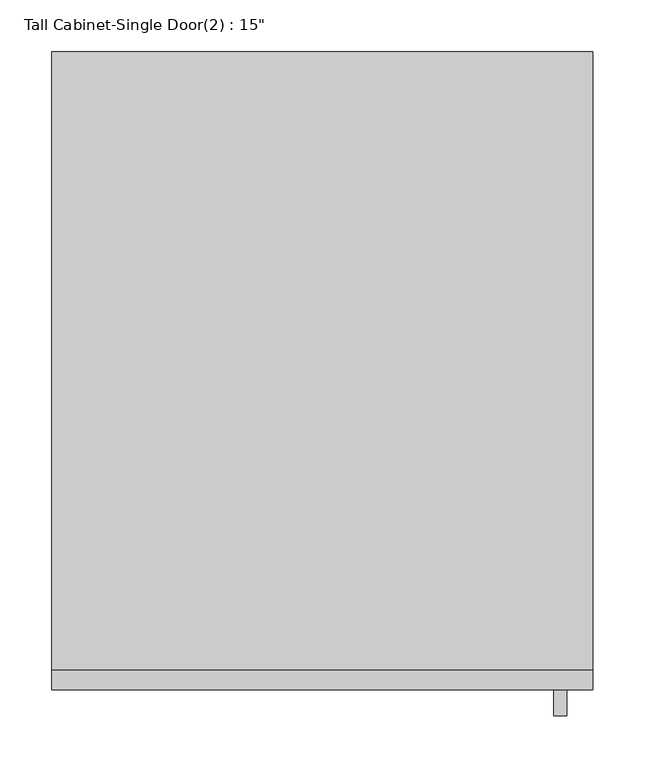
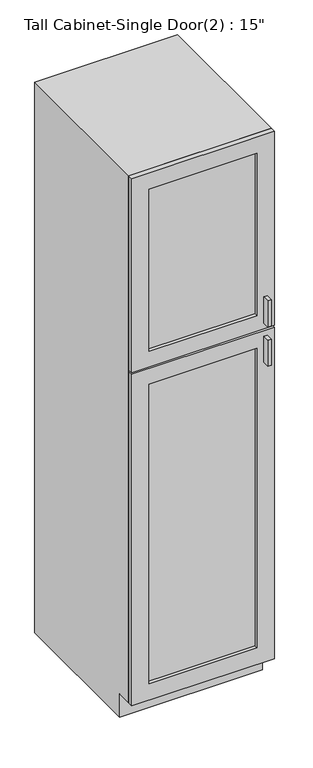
"""IFC4 building model written with IfcOpenShell, lengths in millimetres: furniture geometry."""

from ifc_helpers import new_model, si_unit, frame, origin, place, context, project, spatial, polyline, outline, extrude, faceted_brep, source, transform, mapped, element, save


def furniture_ce4d81af(model_context):
    return source(origin(), model_context, "Body", "SolidModel", [
        faceted_brep([(280.086767, -596.9, 90.4875), (280.086767, -596.9, 2133.6), (-242.6113572, -596.9, 2133.6), (-242.6113572, -596.9, 90.4875), (261.036767, -596.9, 2114.55), (261.036767, -596.9, 109.5375), (-223.5613572, -596.9, 109.5375), (-223.5613572, -596.9, 2114.55), (-242.6113572, 0.0, 2133.6), (280.086767, 0.0, 2133.6), (280.086767, 0.0, 0.0), (-242.6113572, 0.0, 0.0), (280.086767, -539.75, 90.4875), (280.086767, -539.75, 0.0), (-242.6113572, -539.75, 0.0), (-242.6113572, -539.75, 90.4875), (261.036767, -19.05, 2114.55), (261.036767, -19.05, 109.5375), (-223.5613572, -19.05, 109.5375), (-223.5613572, -19.05, 2114.55)], [[[0, 1, 2, 3], [4, 5, 6, 7]], [[8, 9, 10, 11]], [[1, 0, 12, 13, 10, 9]], [[2, 1, 9, 8]], [[3, 2, 8, 11, 14, 15]], [[0, 3, 15, 12]], [[5, 4, 16, 17]], [[6, 5, 17, 18]], [[7, 6, 18, 19]], [[4, 7, 19, 16]], [[10, 13, 14, 11]], [[14, 13, 12, 15]], [[17, 16, 19, 18]]]),
        extrude(outline(polyline([(254.686767, -641.35), (242.1545354, -641.35), (242.1545354, -615.95), (254.686767, -615.95), (254.686767, -641.35)])), frame((0.0, 0.0, 1403.5480367), z_axis=(0.0, 0.0, 1.0), x_axis=(1.0, 0.0, 0.0)), (0.0, 0.0, 1.0), 101.6),
        extrude(outline(polyline([(254.686767, -641.35), (242.1545354, -641.35), (242.1545354, -615.95), (254.686767, -615.95), (254.686767, -641.35)])), frame((0.0, 0.0, 1251.1480367), z_axis=(0.0, 0.0, 1.0), x_axis=(1.0, 0.0, 0.0)), (0.0, 0.0, 1.0), 101.6),
        extrude(outline(polyline([(216.586767, -603.25), (-179.1113572, -603.25), (-179.1113572, -596.9), (216.586767, -596.9), (216.586767, -603.25)])), frame((0.0, 0.0, 1441.6480367), z_axis=(0.0, 0.0, 1.0), x_axis=(1.0, 0.0, 0.0)), (0.0, 0.0, 1.0), 628.4519633),
        extrude(outline(polyline([(216.586767, -603.25), (-179.1113572, -603.25), (-179.1113572, -596.9), (216.586767, -596.9), (216.586767, -603.25)])), frame((0.0, 0.0, 153.9875), z_axis=(0.0, 0.0, 1.0), x_axis=(1.0, 0.0, 0.0)), (0.0, 0.0, 1.0), 1160.6605367),
        extrude(outline(polyline([(2133.6, 280.086767), (2133.6, -242.6113572), (1381.3230367, -242.6113572), (1381.3230367, 280.086767), (2133.6, 280.086767)]), holes=[polyline([(2070.1, 216.586767), (1441.6480367, 216.586767), (1441.6480367, -179.1113572), (2070.1, -179.1113572), (2070.1, 216.586767)])]), frame((0.0, -615.95, 0.0), z_axis=(0.0, 1.0, 0.0), x_axis=(0.0, 0.0, 1.0)), (0.0, 0.0, 1.0), 19.05),
        extrude(outline(polyline([(90.4875, 280.086767), (1374.9730367, 280.086767), (1374.9730367, -242.6113572), (90.4875, -242.6113572), (90.4875, 280.086767)]), holes=[polyline([(1314.6480367, 216.586767), (153.9875, 216.586767), (153.9875, -179.1113572), (1314.6480367, -179.1113572), (1314.6480367, 216.586767)])]), frame((0.0, -615.95, 0.0), z_axis=(0.0, 1.0, 0.0), x_axis=(0.0, 0.0, 1.0)), (0.0, 0.0, 1.0), 19.05),
    ])


if __name__ == "__main__":
    model = new_model("IFC4")
    model_context = context("Model", 3, world=origin())
    ifc_project = project(units=[si_unit("LENGTHUNIT", "METRE", prefix="MILLI")], contexts=[model_context])
    site = spatial("IfcSite", under=ifc_project)
    building = spatial("IfcBuilding", under=site)
    placement = place(None, origin())
    furniture_shape = furniture_ce4d81af(model_context)
    element("IfcFurniture", 1, ObjectType="Tall Cabinet-Single Door(2) : 15\"", at=placement, inside=building, context=model_context, shape_type="MappedRepresentation", body=[
        mapped(furniture_shape, transform((0.0, 0.0, 0.0), x_axis=(1.0, 0.0, 0.0), y_axis=(0.0, 1.0, 0.0), z_axis=(0.0, 0.0, 1.0))),
    ])
    save(model, "model.ifc")
